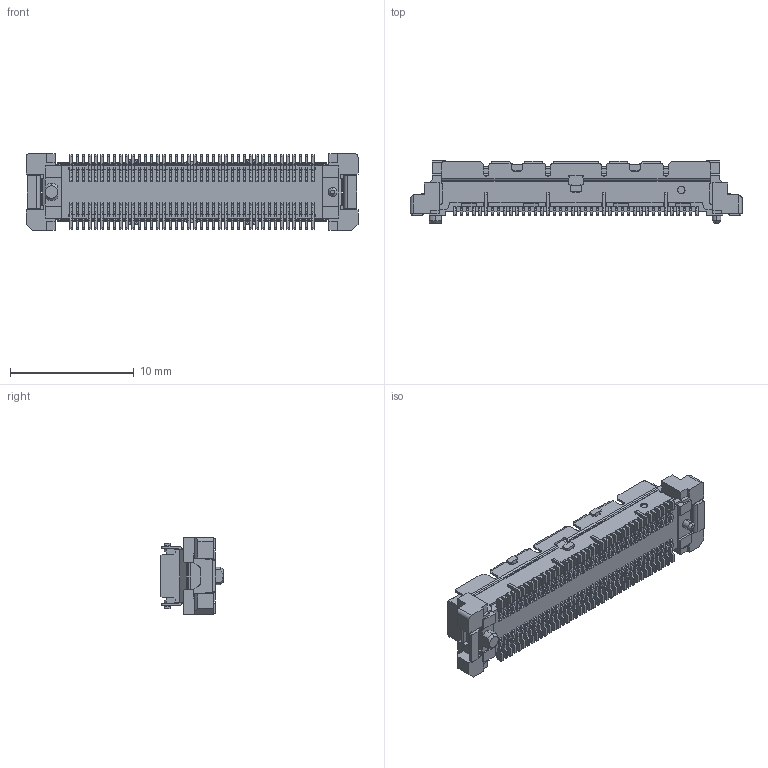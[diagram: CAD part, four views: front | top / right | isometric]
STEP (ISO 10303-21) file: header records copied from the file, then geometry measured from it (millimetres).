
FILE_DESCRIPTION (( 'STEP AP214' ), '1' );
FILE_NAME ('401-51601-5x_3D.STEP', '2018-03-26T09:36:15', ( '' ), ( '' ), 'SwSTEP 2.0', 'SolidWorks 2016', '' );
FILE_SCHEMA (( 'AUTOMOTIVE_DESIGN' ));
Length unit declared in the file: millimetre
Products named in the file (1): 401-51601-5x_3D
Bounding box: 26.8 x 5.05 x 6.2 mm (x, y, z)
Volume: 286.1 mm3; surface area: 1178.5 mm2
Topology: 1 solids, 1 shells, 4177 faces, 12325 edges, 8199 vertices
Faces by surface type: plane 2667, cylinder 1505, cone 5
Entity records: 185111 total; most frequent: CARTESIAN_POINT 25376, ORIENTED_EDGE 24650, DIRECTION 23286, EDGE_CURVE 12325, VECTOR 9276, LINE 9276, VERTEX_POINT 8199, AXIS2_PLACEMENT_3D 7005
